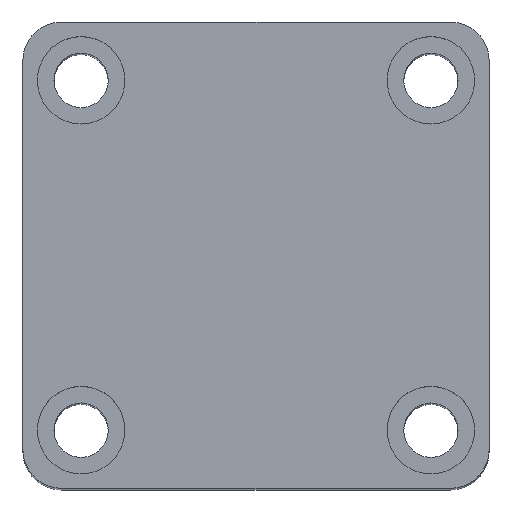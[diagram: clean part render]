
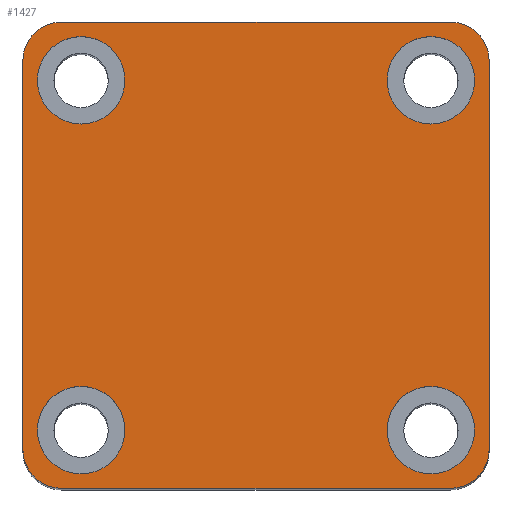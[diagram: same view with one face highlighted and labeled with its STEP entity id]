
A CAD part, top view. The second image highlights one B-rep face of the part: STEP entity #1427.
In plain terms, the highlighted planar face has unit normal (0, 0, 1).
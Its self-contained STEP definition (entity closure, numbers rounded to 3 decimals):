
#4 = EDGE_LOOP ( 'NONE', ( #1100, #1101, #1102, #1103, #1104, #1105, #1106, #1107 ) ) ;
#6 = EDGE_LOOP ( 'NONE', ( #1092, #1094 ) ) ;
#85 = VERTEX_POINT ( 'NONE', #1719 ) ;
#97 = VERTEX_POINT ( 'NONE', #1695 ) ;
#104 = VERTEX_POINT ( 'NONE', #1671 ) ;
#126 = VERTEX_POINT ( 'NONE', #1607 ) ;
#135 = VERTEX_POINT ( 'NONE', #1521 ) ;
#136 = VERTEX_POINT ( 'NONE', #1510 ) ;
#140 = VERTEX_POINT ( 'NONE', #1494 ) ;
#150 = VERTEX_POINT ( 'NONE', #1468 ) ;
#166 = VERTEX_POINT ( 'NONE', #1801 ) ;
#175 = VERTEX_POINT ( 'NONE', #1792 ) ;
#183 = VERTEX_POINT ( 'NONE', #1784 ) ;
#185 = VERTEX_POINT ( 'NONE', #1782 ) ;
#187 = VERTEX_POINT ( 'NONE', #1780 ) ;
#208 = VERTEX_POINT ( 'NONE', #1775 ) ;
#224 = VERTEX_POINT ( 'NONE', #1773 ) ;
#295 = FACE_BOUND ( 'NONE', #6, .T. ) ;
#297 = FACE_OUTER_BOUND ( 'NONE', #4, .T. ) ;
#300 = FACE_BOUND ( 'NONE', #1339, .T. ) ;
#301 = FACE_BOUND ( 'NONE', #1338, .T. ) ;
#307 = FACE_BOUND ( 'NONE', #1341, .T. ) ;
#412 = VERTEX_POINT ( 'NONE', #1771 ) ;
#562 = CIRCLE ( 'NONE', #891, 4.5 ) ;
#570 = CIRCLE ( 'NONE', #898, 4.5 ) ;
#572 = CIRCLE ( 'NONE', #899, 4.5 ) ;
#587 = EDGE_CURVE ( 'NONE', #150, #126, #2434, .T. ) ;
#590 = EDGE_CURVE ( 'NONE', #412, #183, #2426, .T. ) ;
#591 = EDGE_CURVE ( 'NONE', #126, #208, #2421, .T. ) ;
#594 = EDGE_CURVE ( 'NONE', #208, #412, #2419, .T. ) ;
#596 = EDGE_CURVE ( 'NONE', #166, #150, #2418, .T. ) ;
#602 = EDGE_CURVE ( 'NONE', #183, #185, #2407, .T. ) ;
#633 = AXIS2_PLACEMENT_3D ( 'NONE', #1620, #1618, #1617 ) ;
#636 = AXIS2_PLACEMENT_3D ( 'NONE', #1624, #1623, #1622 ) ;
#653 = AXIS2_PLACEMENT_3D ( 'NONE', #1723, #1722, #1721 ) ;
#656 = AXIS2_PLACEMENT_3D ( 'NONE', #1739, #1738, #1737 ) ;
#657 = AXIS2_PLACEMENT_3D ( 'NONE', #1743, #1742, #1741 ) ;
#659 = EDGE_CURVE ( 'NONE', #224, #187, #2377, .T. ) ;
#660 = EDGE_CURVE ( 'NONE', #185, #135, #2376, .T. ) ;
#677 = AXIS2_PLACEMENT_3D ( 'NONE', #1545, #1544, #1543 ) ;
#680 = AXIS2_PLACEMENT_3D ( 'NONE', #1519, #1518, #1517 ) ;
#690 = EDGE_CURVE ( 'NONE', #97, #140, #2343, .T. ) ;
#704 = EDGE_CURVE ( 'NONE', #85, #136, #2328, .T. ) ;
#706 = EDGE_CURVE ( 'NONE', #135, #166, #2326, .T. ) ;
#722 = EDGE_CURVE ( 'NONE', #175, #104, #2300, .T. ) ;
#727 = EDGE_CURVE ( 'NONE', #187, #224, #2293, .T. ) ;
#762 = AXIS2_PLACEMENT_3D ( 'NONE', #1455, #1451, #1449 ) ;
#763 = AXIS2_PLACEMENT_3D ( 'NONE', #2200, #2186, #2199 ) ;
#819 = AXIS2_PLACEMENT_3D ( 'NONE', #1943, #1947, #1940 ) ;
#891 = AXIS2_PLACEMENT_3D ( 'NONE', #2701, #2700, #2699 ) ;
#898 = AXIS2_PLACEMENT_3D ( 'NONE', #2737, #2736, #2735 ) ;
#899 = AXIS2_PLACEMENT_3D ( 'NONE', #2745, #2744, #2743 ) ;
#1090 = ORIENTED_EDGE ( 'NONE', *, *, #1855, .F. ) ;
#1091 = ORIENTED_EDGE ( 'NONE', *, *, #704, .F. ) ;
#1092 = ORIENTED_EDGE ( 'NONE', *, *, #1857, .F. ) ;
#1094 = ORIENTED_EDGE ( 'NONE', *, *, #722, .F. ) ;
#1095 = ORIENTED_EDGE ( 'NONE', *, *, #1865, .F. ) ;
#1097 = ORIENTED_EDGE ( 'NONE', *, *, #690, .F. ) ;
#1098 = ORIENTED_EDGE ( 'NONE', *, *, #659, .F. ) ;
#1099 = ORIENTED_EDGE ( 'NONE', *, *, #727, .F. ) ;
#1100 = ORIENTED_EDGE ( 'NONE', *, *, #602, .T. ) ;
#1101 = ORIENTED_EDGE ( 'NONE', *, *, #660, .T. ) ;
#1102 = ORIENTED_EDGE ( 'NONE', *, *, #706, .T. ) ;
#1103 = ORIENTED_EDGE ( 'NONE', *, *, #596, .T. ) ;
#1104 = ORIENTED_EDGE ( 'NONE', *, *, #587, .T. ) ;
#1105 = ORIENTED_EDGE ( 'NONE', *, *, #591, .T. ) ;
#1106 = ORIENTED_EDGE ( 'NONE', *, *, #594, .T. ) ;
#1107 = ORIENTED_EDGE ( 'NONE', *, *, #590, .T. ) ;
#1338 = EDGE_LOOP ( 'NONE', ( #1098, #1099 ) ) ;
#1339 = EDGE_LOOP ( 'NONE', ( #1090, #1091 ) ) ;
#1341 = EDGE_LOOP ( 'NONE', ( #1095, #1097 ) ) ;
#1427 = ADVANCED_FACE ( 'NONE', ( #300, #295, #307, #301, #297 ), #1945, .T. ) ;
#1449 = DIRECTION ( 'NONE',  ( 1., 0., 0. ) ) ;
#1451 = DIRECTION ( 'NONE',  ( 0., 0., 1. ) ) ;
#1455 = CARTESIAN_POINT ( 'NONE',  ( 18., 18., 95. ) ) ;
#1468 = CARTESIAN_POINT ( 'NONE',  ( -20., -24., 95. ) ) ;
#1494 = CARTESIAN_POINT ( 'NONE',  ( -13.5, -18., 95. ) ) ;
#1510 = CARTESIAN_POINT ( 'NONE',  ( -13.5, 18., 95. ) ) ;
#1515 = CARTESIAN_POINT ( 'NONE',  ( -24., 24., 95. ) ) ;
#1517 = DIRECTION ( 'NONE',  ( 1., 0., 0. ) ) ;
#1518 = DIRECTION ( 'NONE',  ( 0., 0., 1. ) ) ;
#1519 = CARTESIAN_POINT ( 'NONE',  ( -18., 18., 95. ) ) ;
#1520 = DIRECTION ( 'NONE',  ( 0., -1., 0. ) ) ;
#1521 = CARTESIAN_POINT ( 'NONE',  ( -24., 20., 95. ) ) ;
#1543 = DIRECTION ( 'NONE',  ( 1., 0., 0. ) ) ;
#1544 = DIRECTION ( 'NONE',  ( 0., 0., 1. ) ) ;
#1545 = CARTESIAN_POINT ( 'NONE',  ( -18., -18., 95. ) ) ;
#1607 = CARTESIAN_POINT ( 'NONE',  ( 20., -24., 95. ) ) ;
#1617 = DIRECTION ( 'NONE',  ( 1., 0., 0. ) ) ;
#1618 = DIRECTION ( 'NONE',  ( 0., 0., 1. ) ) ;
#1620 = CARTESIAN_POINT ( 'NONE',  ( -20., 20., 95. ) ) ;
#1622 = DIRECTION ( 'NONE',  ( 1., 0., 0. ) ) ;
#1623 = DIRECTION ( 'NONE',  ( 0., 0., 1. ) ) ;
#1624 = CARTESIAN_POINT ( 'NONE',  ( 18., -18., 95. ) ) ;
#1671 = CARTESIAN_POINT ( 'NONE',  ( 22.5, 18., 95. ) ) ;
#1695 = CARTESIAN_POINT ( 'NONE',  ( -22.5, -18., 95. ) ) ;
#1711 = DIRECTION ( 'NONE',  ( -1., 0., 0. ) ) ;
#1713 = CARTESIAN_POINT ( 'NONE',  ( -24., 24., 95. ) ) ;
#1719 = CARTESIAN_POINT ( 'NONE',  ( -22.5, 18., 95. ) ) ;
#1721 = DIRECTION ( 'NONE',  ( 1., 0., 0. ) ) ;
#1722 = DIRECTION ( 'NONE',  ( 0., 0., 1. ) ) ;
#1723 = CARTESIAN_POINT ( 'NONE',  ( -20., -20., 95. ) ) ;
#1733 = CARTESIAN_POINT ( 'NONE',  ( 24., 24., 95. ) ) ;
#1737 = DIRECTION ( 'NONE',  ( 1., 0., 0. ) ) ;
#1738 = DIRECTION ( 'NONE',  ( 0., 0., 1. ) ) ;
#1739 = CARTESIAN_POINT ( 'NONE',  ( 20., -20., 95. ) ) ;
#1741 = DIRECTION ( 'NONE',  ( 1., 0., 0. ) ) ;
#1742 = DIRECTION ( 'NONE',  ( 0., 0., 1. ) ) ;
#1743 = CARTESIAN_POINT ( 'NONE',  ( 20., 20., 95. ) ) ;
#1745 = DIRECTION ( 'NONE',  ( 0., 1., 0. ) ) ;
#1751 = DIRECTION ( 'NONE',  ( 1., 0., 0. ) ) ;
#1759 = CARTESIAN_POINT ( 'NONE',  ( -24., -24., 95. ) ) ;
#1771 = CARTESIAN_POINT ( 'NONE',  ( 24., 20., 95. ) ) ;
#1773 = CARTESIAN_POINT ( 'NONE',  ( 22.5, -18., 95. ) ) ;
#1775 = CARTESIAN_POINT ( 'NONE',  ( 24., -20., 95. ) ) ;
#1780 = CARTESIAN_POINT ( 'NONE',  ( 13.5, -18., 95. ) ) ;
#1782 = CARTESIAN_POINT ( 'NONE',  ( -20., 24., 95. ) ) ;
#1784 = CARTESIAN_POINT ( 'NONE',  ( 20., 24., 95. ) ) ;
#1792 = CARTESIAN_POINT ( 'NONE',  ( 13.5, 18., 95. ) ) ;
#1801 = CARTESIAN_POINT ( 'NONE',  ( -24., -20., 95. ) ) ;
#1855 = EDGE_CURVE ( 'NONE', #136, #85, #572, .T. ) ;
#1857 = EDGE_CURVE ( 'NONE', #104, #175, #570, .T. ) ;
#1865 = EDGE_CURVE ( 'NONE', #140, #97, #562, .T. ) ;
#1940 = DIRECTION ( 'NONE',  ( 1., 0., 0. ) ) ;
#1943 = CARTESIAN_POINT ( 'NONE',  ( 0., 0., 95. ) ) ;
#1945 = PLANE ( 'NONE',  #819 ) ;
#1947 = DIRECTION ( 'NONE',  ( 0., 0., 1. ) ) ;
#2186 = DIRECTION ( 'NONE',  ( 0., 0., 1. ) ) ;
#2199 = DIRECTION ( 'NONE',  ( 1., 0., 0. ) ) ;
#2200 = CARTESIAN_POINT ( 'NONE',  ( 18., -18., 95. ) ) ;
#2293 = CIRCLE ( 'NONE', #763, 4.5 ) ;
#2300 = CIRCLE ( 'NONE', #762, 4.5 ) ;
#2323 = VECTOR ( 'NONE', #1520, 1000. ) ;
#2326 = LINE ( 'NONE', #1515, #2323 ) ;
#2328 = CIRCLE ( 'NONE', #680, 4.5 ) ;
#2343 = CIRCLE ( 'NONE', #677, 4.5 ) ;
#2376 = CIRCLE ( 'NONE', #633, 4. ) ;
#2377 = CIRCLE ( 'NONE', #636, 4.5 ) ;
#2403 = VECTOR ( 'NONE', #1711, 1000. ) ;
#2407 = LINE ( 'NONE', #1713, #2403 ) ;
#2416 = VECTOR ( 'NONE', #1745, 1000. ) ;
#2418 = CIRCLE ( 'NONE', #653, 4. ) ;
#2419 = LINE ( 'NONE', #1733, #2416 ) ;
#2421 = CIRCLE ( 'NONE', #656, 4. ) ;
#2425 = VECTOR ( 'NONE', #1751, 1000. ) ;
#2426 = CIRCLE ( 'NONE', #657, 4. ) ;
#2434 = LINE ( 'NONE', #1759, #2425 ) ;
#2699 = DIRECTION ( 'NONE',  ( 1., 0., 0. ) ) ;
#2700 = DIRECTION ( 'NONE',  ( 0., 0., 1. ) ) ;
#2701 = CARTESIAN_POINT ( 'NONE',  ( -18., -18., 95. ) ) ;
#2735 = DIRECTION ( 'NONE',  ( 1., 0., 0. ) ) ;
#2736 = DIRECTION ( 'NONE',  ( 0., 0., 1. ) ) ;
#2737 = CARTESIAN_POINT ( 'NONE',  ( 18., 18., 95. ) ) ;
#2743 = DIRECTION ( 'NONE',  ( 1., 0., 0. ) ) ;
#2744 = DIRECTION ( 'NONE',  ( 0., 0., 1. ) ) ;
#2745 = CARTESIAN_POINT ( 'NONE',  ( -18., 18., 95. ) ) ;
